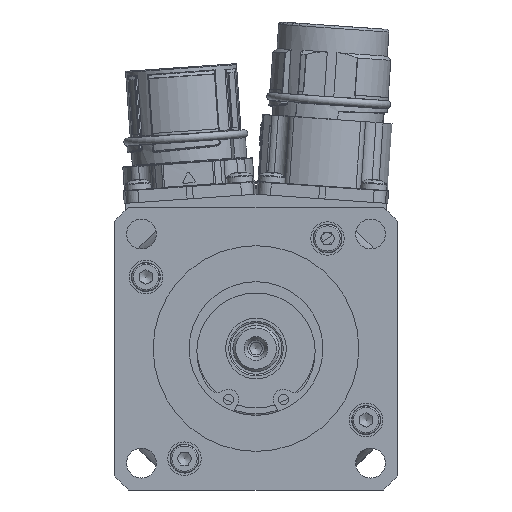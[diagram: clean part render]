
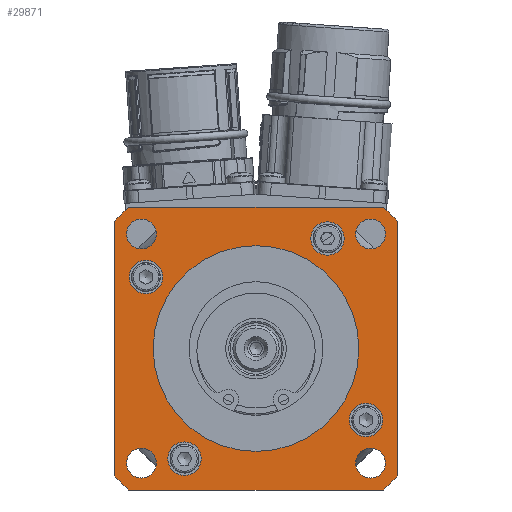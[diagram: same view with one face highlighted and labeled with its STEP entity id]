
A CAD part, left-side view. The second image highlights one B-rep face of the part: STEP entity #29871.
In plain terms, the highlighted planar face has unit normal (-1, 0, 0).
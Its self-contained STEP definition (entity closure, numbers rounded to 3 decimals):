
#1174=FACE_BOUND('',#3587,.T.);
#1175=FACE_BOUND('',#3588,.T.);
#1176=FACE_BOUND('',#3589,.T.);
#1177=FACE_BOUND('',#3590,.T.);
#1178=FACE_BOUND('',#3591,.T.);
#1179=FACE_BOUND('',#3592,.T.);
#1180=FACE_BOUND('',#3593,.T.);
#1181=FACE_BOUND('',#3594,.T.);
#1182=FACE_BOUND('',#3595,.T.);
#1342=PLANE('',#31818);
#1871=FACE_OUTER_BOUND('',#3586,.T.);
#3586=EDGE_LOOP('',(#18555,#18556,#18557,#18558,#18559,#18560,#18561,#18562));
#3587=EDGE_LOOP('',(#18563));
#3588=EDGE_LOOP('',(#18564));
#3589=EDGE_LOOP('',(#18565));
#3590=EDGE_LOOP('',(#18566));
#3591=EDGE_LOOP('',(#18567));
#3592=EDGE_LOOP('',(#18568));
#3593=EDGE_LOOP('',(#18569));
#3594=EDGE_LOOP('',(#18570));
#3595=EDGE_LOOP('',(#18571,#18572));
#5565=CIRCLE('',#31763,37.);
#5566=CIRCLE('',#31765,37.);
#5567=CIRCLE('',#31769,2.9);
#5568=CIRCLE('',#31771,2.9);
#5569=CIRCLE('',#31773,2.9);
#5570=CIRCLE('',#31775,2.9);
#5572=CIRCLE('',#31779,3.25);
#5578=CIRCLE('',#31788,3.25);
#5584=CIRCLE('',#31797,3.25);
#5590=CIRCLE('',#31806,3.25);
#5595=CIRCLE('',#31813,37.);
#5596=CIRCLE('',#31816,37.);
#5597=CIRCLE('',#31819,20.);
#5598=CIRCLE('',#31820,20.);
#7759=LINE('',#45118,#9310);
#7761=LINE('',#45121,#9312);
#7783=LINE('',#45220,#9334);
#7786=LINE('',#45227,#9337);
#9310=VECTOR('',#35795,10.);
#9312=VECTOR('',#35799,10.);
#9334=VECTOR('',#35915,10.);
#9337=VECTOR('',#35924,10.);
#10921=VERTEX_POINT('',#45105);
#10922=VERTEX_POINT('',#45106);
#10923=VERTEX_POINT('',#45111);
#10924=VERTEX_POINT('',#45112);
#10925=VERTEX_POINT('',#45117);
#10926=VERTEX_POINT('',#45123);
#10927=VERTEX_POINT('',#45127);
#10928=VERTEX_POINT('',#45131);
#10929=VERTEX_POINT('',#45135);
#10931=VERTEX_POINT('',#45143);
#10937=VERTEX_POINT('',#45162);
#10943=VERTEX_POINT('',#45181);
#10949=VERTEX_POINT('',#45200);
#10954=VERTEX_POINT('',#45215);
#10955=VERTEX_POINT('',#45219);
#10956=VERTEX_POINT('',#45223);
#10957=VERTEX_POINT('',#45229);
#10958=VERTEX_POINT('',#45230);
#13863=EDGE_CURVE('',#10921,#10922,#5565,.T.);
#13866=EDGE_CURVE('',#10923,#10924,#5566,.T.);
#13869=EDGE_CURVE('',#10925,#10923,#7759,.T.);
#13871=EDGE_CURVE('',#10924,#10921,#7761,.T.);
#13872=EDGE_CURVE('',#10926,#10926,#5567,.T.);
#13874=EDGE_CURVE('',#10927,#10927,#5568,.T.);
#13876=EDGE_CURVE('',#10928,#10928,#5569,.T.);
#13878=EDGE_CURVE('',#10929,#10929,#5570,.T.);
#13882=EDGE_CURVE('',#10931,#10931,#5572,.T.);
#13892=EDGE_CURVE('',#10937,#10937,#5578,.T.);
#13902=EDGE_CURVE('',#10943,#10943,#5584,.T.);
#13912=EDGE_CURVE('',#10949,#10949,#5590,.T.);
#13920=EDGE_CURVE('',#10954,#10925,#5595,.T.);
#13922=EDGE_CURVE('',#10955,#10954,#7783,.T.);
#13924=EDGE_CURVE('',#10956,#10955,#5596,.T.);
#13926=EDGE_CURVE('',#10922,#10956,#7786,.T.);
#13927=EDGE_CURVE('',#10957,#10958,#5597,.T.);
#13928=EDGE_CURVE('',#10958,#10957,#5598,.T.);
#18555=ORIENTED_EDGE('',*,*,#13869,.F.);
#18556=ORIENTED_EDGE('',*,*,#13920,.F.);
#18557=ORIENTED_EDGE('',*,*,#13922,.F.);
#18558=ORIENTED_EDGE('',*,*,#13924,.F.);
#18559=ORIENTED_EDGE('',*,*,#13926,.F.);
#18560=ORIENTED_EDGE('',*,*,#13863,.F.);
#18561=ORIENTED_EDGE('',*,*,#13871,.F.);
#18562=ORIENTED_EDGE('',*,*,#13866,.F.);
#18563=ORIENTED_EDGE('',*,*,#13912,.F.);
#18564=ORIENTED_EDGE('',*,*,#13902,.F.);
#18565=ORIENTED_EDGE('',*,*,#13892,.F.);
#18566=ORIENTED_EDGE('',*,*,#13882,.F.);
#18567=ORIENTED_EDGE('',*,*,#13878,.F.);
#18568=ORIENTED_EDGE('',*,*,#13876,.F.);
#18569=ORIENTED_EDGE('',*,*,#13874,.F.);
#18570=ORIENTED_EDGE('',*,*,#13872,.F.);
#18571=ORIENTED_EDGE('',*,*,#13927,.F.);
#18572=ORIENTED_EDGE('',*,*,#13928,.F.);
#29871=ADVANCED_FACE('',(#1871,#1174,#1175,#1176,#1177,#1178,#1179,#1180,
#1181,#1182),#1342,.F.);
#31763=AXIS2_PLACEMENT_3D('',#45107,#35783,#35784);
#31765=AXIS2_PLACEMENT_3D('',#45113,#35789,#35790);
#31769=AXIS2_PLACEMENT_3D('',#45124,#35802,#35803);
#31771=AXIS2_PLACEMENT_3D('',#45128,#35807,#35808);
#31773=AXIS2_PLACEMENT_3D('',#45132,#35812,#35813);
#31775=AXIS2_PLACEMENT_3D('',#45136,#35817,#35818);
#31779=AXIS2_PLACEMENT_3D('',#45144,#35827,#35828);
#31788=AXIS2_PLACEMENT_3D('',#45163,#35849,#35850);
#31797=AXIS2_PLACEMENT_3D('',#45182,#35871,#35872);
#31806=AXIS2_PLACEMENT_3D('',#45201,#35893,#35894);
#31813=AXIS2_PLACEMENT_3D('',#45216,#35910,#35911);
#31816=AXIS2_PLACEMENT_3D('',#45224,#35919,#35920);
#31818=AXIS2_PLACEMENT_3D('',#45228,#35925,#35926);
#31819=AXIS2_PLACEMENT_3D('',#45231,#35927,#35928);
#31820=AXIS2_PLACEMENT_3D('',#45232,#35929,#35930);
#35783=DIRECTION('center_axis',(1.,0.,0.));
#35784=DIRECTION('ref_axis',(0.,0.,
1.));
#35789=DIRECTION('center_axis',(1.,0.,0.));
#35790=DIRECTION('ref_axis',(0.,0.,
1.));
#35795=DIRECTION('',(0.,-1.,0.));
#35799=DIRECTION('',(0.,0.,-1.));
#35802=DIRECTION('center_axis',(-1.,0.,0.));
#35803=DIRECTION('ref_axis',(0.,-1.,0.));
#35807=DIRECTION('center_axis',(-1.,0.,0.));
#35808=DIRECTION('ref_axis',(0.,0.,
-1.));
#35812=DIRECTION('center_axis',(-1.,0.,0.));
#35813=DIRECTION('ref_axis',(0.,1.,0.));
#35817=DIRECTION('center_axis',(-1.,0.,0.));
#35818=DIRECTION('ref_axis',(0.,0.,
1.));
#35827=DIRECTION('center_axis',(-1.,0.,0.));
#35828=DIRECTION('ref_axis',(0.,-1.,0.));
#35849=DIRECTION('center_axis',(-1.,0.,0.));
#35850=DIRECTION('ref_axis',(0.,0.,
-1.));
#35871=DIRECTION('center_axis',(-1.,0.,0.));
#35872=DIRECTION('ref_axis',(0.,1.,0.));
#35893=DIRECTION('center_axis',(-1.,0.,0.));
#35894=DIRECTION('ref_axis',(0.,0.,
1.));
#35910=DIRECTION('center_axis',(1.,0.,0.));
#35911=DIRECTION('ref_axis',(0.,0.,
1.));
#35915=DIRECTION('',(0.,0.,1.));
#35919=DIRECTION('center_axis',(1.,0.,0.));
#35920=DIRECTION('ref_axis',(0.,0.,
1.));
#35924=DIRECTION('',(0.,1.,0.));
#35925=DIRECTION('center_axis',(1.,0.,0.));
#35926=DIRECTION('ref_axis',(0.,0.,
-1.));
#35927=DIRECTION('center_axis',(-1.,0.,0.));
#35928=DIRECTION('ref_axis',(0.,0.,
1.));
#35929=DIRECTION('center_axis',(-1.,0.,0.));
#35930=DIRECTION('ref_axis',(0.,0.,
1.));
#45105=CARTESIAN_POINT('',(-24.75,-27.5,-24.754));
#45106=CARTESIAN_POINT('',(-24.75,-24.754,-27.5));
#45107=CARTESIAN_POINT('Origin',(-24.75,0.,0.));
#45111=CARTESIAN_POINT('',(-24.75,-24.754,27.5));
#45112=CARTESIAN_POINT('',(-24.75,-27.5,24.754));
#45113=CARTESIAN_POINT('Origin',(-24.75,0.,0.));
#45117=CARTESIAN_POINT('',(-24.75,24.754,27.5));
#45118=CARTESIAN_POINT('',(-24.75,13.75,27.5));
#45121=CARTESIAN_POINT('',(-24.75,-27.5,38.704));
#45123=CARTESIAN_POINT('',(-24.75,25.174,22.274));
#45124=CARTESIAN_POINT('Origin',(-24.75,22.274,22.274));
#45127=CARTESIAN_POINT('',(-24.75,-22.274,25.174));
#45128=CARTESIAN_POINT('Origin',(-24.75,-22.274,22.274));
#45131=CARTESIAN_POINT('',(-24.75,-25.174,-22.274));
#45132=CARTESIAN_POINT('Origin',(-24.75,-22.274,-22.274));
#45135=CARTESIAN_POINT('',(-24.75,22.274,-25.174));
#45136=CARTESIAN_POINT('Origin',(-24.75,22.274,-22.274));
#45143=CARTESIAN_POINT('',(-24.75,-10.65,21.4));
#45144=CARTESIAN_POINT('Origin',(-24.75,-13.9,21.4));
#45162=CARTESIAN_POINT('',(-24.75,-21.4,-10.65));
#45163=CARTESIAN_POINT('Origin',(-24.75,-21.4,-13.9));
#45181=CARTESIAN_POINT('',(-24.75,10.65,-21.4));
#45182=CARTESIAN_POINT('Origin',(-24.75,13.9,-21.4));
#45200=CARTESIAN_POINT('',(-24.75,21.4,10.65));
#45201=CARTESIAN_POINT('Origin',(-24.75,21.4,13.9));
#45215=CARTESIAN_POINT('',(-24.75,27.5,24.754));
#45216=CARTESIAN_POINT('Origin',(-24.75,0.,0.));
#45219=CARTESIAN_POINT('',(-24.75,27.5,-24.754));
#45220=CARTESIAN_POINT('',(-24.75,27.5,11.204));
#45223=CARTESIAN_POINT('',(-24.75,24.754,-27.5));
#45224=CARTESIAN_POINT('Origin',(-24.75,0.,0.));
#45227=CARTESIAN_POINT('',(-24.75,-13.75,-27.5));
#45228=CARTESIAN_POINT('Origin',(-24.75,0.,49.909));
#45229=CARTESIAN_POINT('',(-24.75,0.,20.));
#45230=CARTESIAN_POINT('',(-24.75,0.,-20.));
#45231=CARTESIAN_POINT('Origin',(-24.75,0.,0.));
#45232=CARTESIAN_POINT('Origin',(-24.75,0.,0.));
